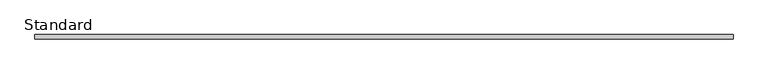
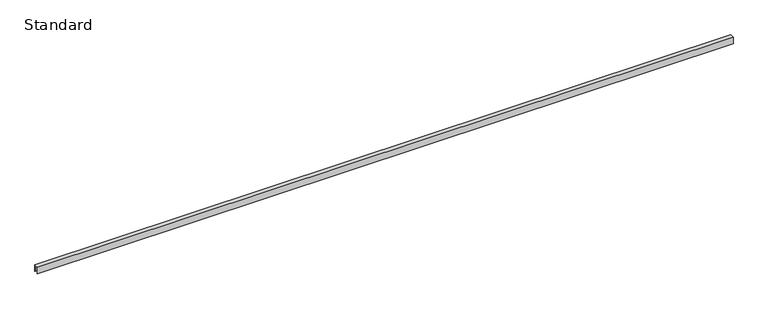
"""IFC4 building model written with IfcOpenShell, lengths in millimetres: furniture geometry, X_Partition-Channel-Duracube-Ceiling : Standard."""

import ifcopenshell
import ifcopenshell.guid

model = None  # the IFC model being written
_history = None  # IfcOwnerHistory: only IFC2X3 demands one
_inside = {}  # id of a spatial element -> (the spatial element, [elements in it])
_under = {}  # id of a project, library or spatial element -> (it, [spatial elements below it])
_declared = {}  # id of a project -> (the project, [libraries it declares])
_typed = {}  # id of a type object -> (the type object, [elements of that type])
_made_of = {}  # id of a material, layer set ... -> (it, [elements and type objects made of it])


def new_model(schema):
    """Start an empty IFC model of exactly this schema.

    Asked for "IFC4X3", IfcOpenShell would pick the latest addendum, in which some entities
    have other attributes; the version numbers below select the first issue.
    IFC2X3 requires an IfcOwnerHistory on every rooted entity: one is made here for all.
    """
    global model, _history
    if schema == "IFC4X3":
        model = ifcopenshell.file(schema_version=(4, 3, 0, 0))
    else:
        model = ifcopenshell.file(schema=schema)
    _inside.clear()
    _under.clear()
    _declared.clear()
    _typed.clear()
    _made_of.clear()
    _history = None
    if model.schema == "IFC2X3":
        org = make("IfcOrganization", Name="unknown")
        user = make(
            "IfcPersonAndOrganization",
            ThePerson=make("IfcPerson", FamilyName="unknown"),
            TheOrganization=org,
        )
        app = make(
            "IfcApplication",
            ApplicationDeveloper=org,
            Version="unknown",
            ApplicationFullName="unknown",
            ApplicationIdentifier="unknown",
        )
        _history = make(
            "IfcOwnerHistory",
            OwningUser=user,
            OwningApplication=app,
            ChangeAction="ADDED",
            CreationDate=0,
        )
    return model


def make(cls, **values):
    """One entity of the class cls with the attributes given. An attribute that is None is left unset."""
    return model.create_entity(
        cls, **{name: value for name, value in values.items() if value is not None}
    )


def rooted(cls, **values):
    """An entity with a GlobalId (a new one), such as an element, a storey or a relation."""
    return make(cls, GlobalId=ifcopenshell.guid.new(), OwnerHistory=_history, **values)


def si_unit(unit_type, name, prefix=None):
    """IfcSIUnit, for example si_unit("LENGTHUNIT", "METRE", prefix="MILLI")."""
    return make("IfcSIUnit", UnitType=unit_type, Prefix=prefix, Name=name)


def assignment(units):
    """IfcUnitAssignment: the units of a project."""
    return None if units is None else make("IfcUnitAssignment", Units=units)


def point(xyz):
    """IfcCartesianPoint."""
    return None if xyz is None else make("IfcCartesianPoint", Coordinates=xyz)


def direction(xyz):
    """IfcDirection."""
    return None if xyz is None else make("IfcDirection", DirectionRatios=xyz)


def frame(location, z_axis=None, x_axis=None):
    """IfcAxis2Placement3D, a coordinate frame: its origin and axes. An axis left out is left unset."""
    return make(
        "IfcAxis2Placement3D",
        Location=point(location),
        Axis=direction(z_axis),
        RefDirection=direction(x_axis),
    )


def origin():
    """The frame at (0, 0, 0) with its axes left unset."""
    return frame((0.0, 0.0, 0.0))


def place(relative_to, where):
    """IfcLocalPlacement: puts the frame where relative to a parent placement (None: the world)."""
    return make(
        "IfcLocalPlacement", PlacementRelTo=relative_to, RelativePlacement=where
    )


def context(
    kind, dimensions, precision=None, world=None, true_north=None, identifier=None
):
    """IfcGeometricRepresentationContext, for example the 3D "Model" context."""
    return make(
        "IfcGeometricRepresentationContext",
        ContextIdentifier=identifier,
        ContextType=kind,
        CoordinateSpaceDimension=dimensions,
        Precision=precision,
        WorldCoordinateSystem=world,
        TrueNorth=true_north,
    )


def project(units=None, contexts=None):
    """IfcProject with its units and contexts."""
    return rooted(
        "IfcProject",
        Name="project",
        RepresentationContexts=contexts,
        UnitsInContext=assignment(units),
    )


def spatial(cls, under=None, at=None, **own):
    """A site, building, storey or space (cls), placed at a placement, below another one or the project."""
    s = rooted(cls, ObjectPlacement=at, **own)
    if under is not None:
        _under.setdefault(under.id(), (under, []))[1].append(s)
    return s


def polyline(points):
    """IfcPolyline through the points."""
    return make("IfcPolyline", Points=[point(p) for p in points])


def outline(outer, holes=None, kind="AREA"):
    """IfcArbitraryClosedProfileDef: a profile drawn as a closed curve; with holes, ...WithVoids."""
    if holes is None:
        return make("IfcArbitraryClosedProfileDef", ProfileType=kind, OuterCurve=outer)
    return make(
        "IfcArbitraryProfileDefWithVoids",
        ProfileType=kind,
        OuterCurve=outer,
        InnerCurves=holes,
    )


def extrude(swept, where, along, depth):
    """IfcExtrudedAreaSolid: the profile swept, set in the frame where, extruded along a direction by depth."""
    return make(
        "IfcExtrudedAreaSolid",
        SweptArea=swept,
        Position=where,
        ExtrudedDirection=direction(along),
        Depth=depth,
    )


def shape(context_of_items, identifier, shape_type, items):
    """IfcShapeRepresentation: the items that make up one representation, for example the "Body"."""
    return make(
        "IfcShapeRepresentation",
        ContextOfItems=context_of_items,
        RepresentationIdentifier=identifier,
        RepresentationType=shape_type,
        Items=items,
    )


def source(mapping_origin, context_of_items, identifier, shape_type, items):
    """IfcRepresentationMap: a shape defined once, which mapped items show again and again."""
    return make(
        "IfcRepresentationMap",
        MappingOrigin=mapping_origin,
        MappedRepresentation=shape(context_of_items, identifier, shape_type, items),
    )


def transform(
    local_origin,
    x_axis=None,
    y_axis=None,
    z_axis=None,
    scale=None,
    scale2=None,
    scale3=None,
    uniform=True,
):
    """IfcCartesianTransformationOperator3D, or its non-uniform kind. x_axis, y_axis, z_axis: its Axis1, 2, 3."""
    if uniform:
        return make(
            "IfcCartesianTransformationOperator3D",
            Axis1=direction(x_axis),
            Axis2=direction(y_axis),
            LocalOrigin=point(local_origin),
            Scale=scale,
            Axis3=direction(z_axis),
        )
    return make(
        "IfcCartesianTransformationOperator3DnonUniform",
        Axis1=direction(x_axis),
        Axis2=direction(y_axis),
        LocalOrigin=point(local_origin),
        Scale=scale,
        Axis3=direction(z_axis),
        Scale2=scale2,
        Scale3=scale3,
    )


def mapped(mapping_source, mapping_target):
    """IfcMappedItem: shows the shape of a source again, moved by a transform."""
    return make(
        "IfcMappedItem", MappingSource=mapping_source, MappingTarget=mapping_target
    )


def made_of(thing, what):
    """Note that an element or type object is made of a material, layer set ...; save() writes the relation."""
    if what is not None:
        _made_of.setdefault(what.id(), (what, []))[1].append(thing)
    return thing


def element(
    cls,
    number,
    at=None,
    inside=None,
    cuts=None,
    type_object=None,
    material=None,
    context=None,
    identifier="Body",
    shape_type=None,
    held_by="IfcProductDefinitionShape",
    body=None,
    shapes=None,
    **own,
):
    """One element of the class cls, such as IfcWall. Its Tag is "e" and its number.

    at: its placement. inside: the storey or other place that contains it. cuts: it is an
    opening in that element (IfcRelVoidsElement). A single representation is given by context,
    identifier, shape_type and body (its items); several are given by shapes. held_by: the class
    of the entity that holds the representations. save() writes the other relations.
    """
    e = rooted(cls, Tag="e%d" % number, ObjectPlacement=at, **own)
    if body is not None:
        shapes = [shape(context, identifier, shape_type, body)]
    if shapes is not None:
        e.Representation = make(held_by, Representations=shapes)
    if inside is not None:
        _inside.setdefault(inside.id(), (inside, []))[1].append(e)
    if cuts is not None:
        rooted(
            "IfcRelVoidsElement", RelatingBuildingElement=cuts, RelatedOpeningElement=e
        )
    if type_object is not None:
        _typed.setdefault(type_object.id(), (type_object, []))[1].append(e)
    return made_of(e, material)


def aggregate(whole, parts):
    """IfcRelAggregates: a whole, such as a stair, and the parts it consists of."""
    return rooted("IfcRelAggregates", RelatingObject=whole, RelatedObjects=parts)


def save(model, path):
    """Write the relations noted so far, then the file.

    IfcRelAggregates (storeys below a building ...), IfcRelContainedInSpatialStructure (elements
    in a storey), IfcRelDefinesByType, IfcRelAssociatesMaterial and IfcRelDeclares: one each for
    every whole, place, type object, material and project.
    """
    for whole, parts in _under.values():
        aggregate(whole, parts)
    for where, things in _inside.values():
        rooted(
            "IfcRelContainedInSpatialStructure",
            RelatedElements=things,
            RelatingStructure=where,
        )
    for kind, things in _typed.values():
        rooted("IfcRelDefinesByType", RelatedObjects=things, RelatingType=kind)
    for what, things in _made_of.values():
        rooted("IfcRelAssociatesMaterial", RelatedObjects=things, RelatingMaterial=what)
    for by, libraries in _declared.values():
        rooted("IfcRelDeclares", RelatingContext=by, RelatedDefinitions=libraries)
    model.write(path)


def standard_e81fa5b9(model_context):
    return source(origin(), model_context, "Body", "SweptSolid", [
        extrude(outline(polyline([(0.0, 0.0), (-2.0, 0.0), (-2.0, 24.0), (-15.0, 24.0), (-15.0, 0.0), (-17.0, 0.0), (-17.0, 26.0), (0.0, 26.0), (0.0, 0.0)])), frame((-1306.2996736, 0.0, 0.0), z_axis=(1.0, 0.0, 0.0), x_axis=(0.0, 1.0, 0.0)), (0.0, 0.0, 1.0), 2702.0),
    ])


if __name__ == "__main__":
    model = new_model("IFC4")
    model_context = context("Model", 3, world=origin())
    ifc_project = project(units=[si_unit("LENGTHUNIT", "METRE", prefix="MILLI")], contexts=[model_context])
    site = spatial("IfcSite", under=ifc_project)
    building = spatial("IfcBuilding", under=site)
    placement = place(None, origin())
    standard_shape = standard_e81fa5b9(model_context)
    element("IfcFurniture", 1, ObjectType="X_Partition-Channel-Duracube-Ceiling : Standard", at=placement, inside=building, context=model_context, shape_type="MappedRepresentation", body=[
        mapped(standard_shape, transform((0.0, 0.0, 0.0), x_axis=(1.0, 0.0, 0.0), y_axis=(0.0, 1.0, 0.0), z_axis=(0.0, 0.0, 1.0))),
    ])
    save(model, "model.ifc")
